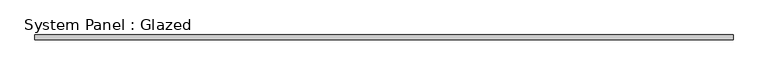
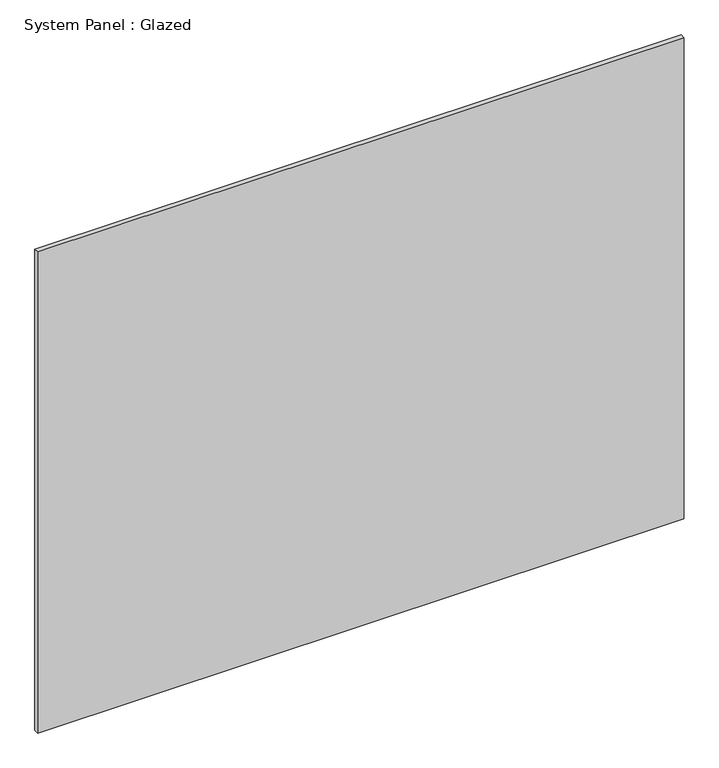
"""IFC4 building model written with IfcOpenShell, lengths in millimetres: plate geometry, System Panel : Glazed."""

from ifc_helpers import new_model, si_unit, origin, origin_with_axes, place, context, project, spatial, polyline, outline, extrude, source, transform, mapped, element, save


def system_panel_glazed_6001607f(model_context):
    return source(origin(), model_context, "Body", "SweptSolid", [
        extrude(outline(polyline([(1747.5, 24.5), (-1747.5, 24.5), (-1747.5, 49.5), (1747.5, 49.5), (1747.5, 24.5)])), origin_with_axes(), (0.0, 0.0, 1.0), 2750.0),
    ])


if __name__ == "__main__":
    model = new_model("IFC4")
    model_context = context("Model", 3, world=origin())
    ifc_project = project(units=[si_unit("LENGTHUNIT", "METRE", prefix="MILLI")], contexts=[model_context])
    site = spatial("IfcSite", under=ifc_project)
    building = spatial("IfcBuilding", under=site)
    placement = place(None, origin())
    system_panel_glazed_shape = system_panel_glazed_6001607f(model_context)
    element("IfcPlate", 1, ObjectType="System Panel : Glazed", at=placement, inside=building, context=model_context, shape_type="MappedRepresentation", body=[
        mapped(system_panel_glazed_shape, transform((0.0, 0.0, 0.0), x_axis=(1.0, 0.0, 0.0), y_axis=(0.0, 1.0, 0.0), z_axis=(0.0, 0.0, 1.0))),
    ])
    save(model, "model.ifc")
